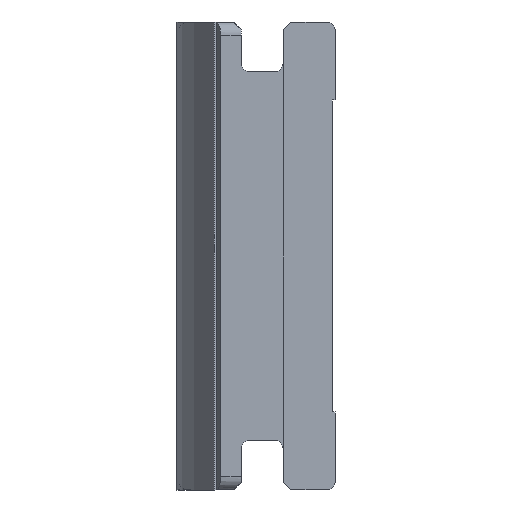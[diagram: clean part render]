
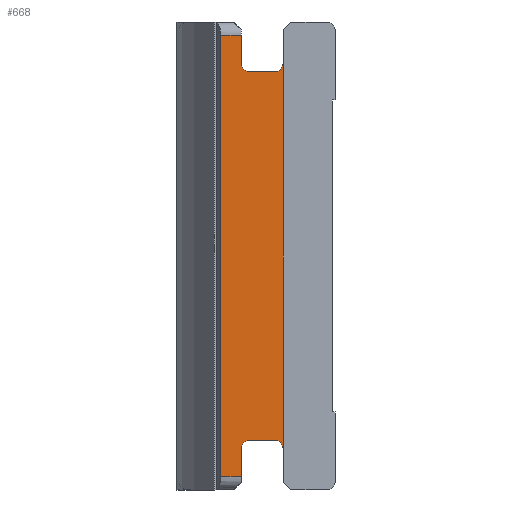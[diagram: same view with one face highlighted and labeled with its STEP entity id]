
A CAD part, left-side view. The second image highlights one B-rep face of the part: STEP entity #668.
In plain terms, the highlighted planar face has unit normal (-1, 0, 0).
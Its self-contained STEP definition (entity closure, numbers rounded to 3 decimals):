
#7 = AXIS2_PLACEMENT_3D ( 'NONE', #1780, #1515, #1056 ) ;
#52 = LINE ( 'NONE', #656, #1725 ) ;
#53 = CARTESIAN_POINT ( 'NONE',  ( 10., 2.2, -7.1 ) ) ;
#83 = EDGE_LOOP ( 'NONE', ( #1526, #1447, #869, #423, #897, #811, #295, #501, #1152, #332, #1834, #363 ) ) ;
#92 = CARTESIAN_POINT ( 'NONE',  ( 10., 2.2, 7.4 ) ) ;
#155 = DIRECTION ( 'NONE',  ( 0., 0., -1. ) ) ;
#157 = VERTEX_POINT ( 'NONE', #506 ) ;
#167 = EDGE_CURVE ( 'NONE', #1025, #157, #409, .T. ) ;
#171 = CARTESIAN_POINT ( 'NONE',  ( 10., 4.3, 8.5 ) ) ;
#211 = CARTESIAN_POINT ( 'NONE',  ( 10., 3.5, -8.7 ) ) ;
#221 = CIRCLE ( 'NONE', #1211, 0.3 ) ;
#238 = DIRECTION ( 'NONE',  ( 0., 0., -1. ) ) ;
#249 = CARTESIAN_POINT ( 'NONE',  ( 10., 2.2, -7.4 ) ) ;
#255 = VERTEX_POINT ( 'NONE', #272 ) ;
#259 = CARTESIAN_POINT ( 'NONE',  ( 10., 3.5, -8.5 ) ) ;
#272 = CARTESIAN_POINT ( 'NONE',  ( 10., 1.9, -7.4 ) ) ;
#295 = ORIENTED_EDGE ( 'NONE', *, *, #1660, .F. ) ;
#332 = ORIENTED_EDGE ( 'NONE', *, *, #1291, .F. ) ;
#343 = DIRECTION ( 'NONE',  ( 0., -1., 0. ) ) ;
#363 = ORIENTED_EDGE ( 'NONE', *, *, #1799, .F. ) ;
#371 = LINE ( 'NONE', #1675, #1851 ) ;
#373 = VECTOR ( 'NONE', #1506, 1000. ) ;
#409 = CIRCLE ( 'NONE', #1307, 0.3 ) ;
#423 = ORIENTED_EDGE ( 'NONE', *, *, #1534, .T. ) ;
#484 = LINE ( 'NONE', #1206, #1234 ) ;
#490 = VECTOR ( 'NONE', #1110, 1000. ) ;
#493 = DIRECTION ( 'NONE',  ( 0., 1., 0. ) ) ;
#501 = ORIENTED_EDGE ( 'NONE', *, *, #1303, .F. ) ;
#506 = CARTESIAN_POINT ( 'NONE',  ( 10., 3.5, -7.4 ) ) ;
#539 = VERTEX_POINT ( 'NONE', #1331 ) ;
#568 = VERTEX_POINT ( 'NONE', #794 ) ;
#637 = LINE ( 'NONE', #211, #1486 ) ;
#656 = CARTESIAN_POINT ( 'NONE',  ( 10., 4.3, -29.536 ) ) ;
#665 = LINE ( 'NONE', #1555, #490 ) ;
#668 = ADVANCED_FACE ( 'NONE', ( #1487 ), #1236, .F. ) ;
#678 = VECTOR ( 'NONE', #155, 1000. ) ;
#720 = CARTESIAN_POINT ( 'NONE',  ( 10., 3.2, 7.4 ) ) ;
#725 = VERTEX_POINT ( 'NONE', #1789 ) ;
#738 = VECTOR ( 'NONE', #1696, 1000. ) ;
#765 = CIRCLE ( 'NONE', #1479, 0.3 ) ;
#786 = DIRECTION ( 'NONE',  ( 0., 0., -1. ) ) ;
#794 = CARTESIAN_POINT ( 'NONE',  ( 10., 3.5, 7.4 ) ) ;
#811 = ORIENTED_EDGE ( 'NONE', *, *, #167, .F. ) ;
#813 = DIRECTION ( 'NONE',  ( 0., 0., 1. ) ) ;
#824 = CARTESIAN_POINT ( 'NONE',  ( 10., 1.9, -29.536 ) ) ;
#831 = VERTEX_POINT ( 'NONE', #1002 ) ;
#833 = DIRECTION ( 'NONE',  ( -1., 0., 0. ) ) ;
#869 = ORIENTED_EDGE ( 'NONE', *, *, #1619, .F. ) ;
#897 = ORIENTED_EDGE ( 'NONE', *, *, #1154, .F. ) ;
#969 = DIRECTION ( 'NONE',  ( 0., 0., -1. ) ) ;
#1002 = CARTESIAN_POINT ( 'NONE',  ( 10., 1.9, 7.4 ) ) ;
#1025 = VERTEX_POINT ( 'NONE', #1594 ) ;
#1056 = DIRECTION ( 'NONE',  ( 0., 0., -1. ) ) ;
#1073 = CARTESIAN_POINT ( 'NONE',  ( 10., 1.9, 8.5 ) ) ;
#1088 = LINE ( 'NONE', #1073, #373 ) ;
#1110 = DIRECTION ( 'NONE',  ( 0., -1., 0. ) ) ;
#1116 = CARTESIAN_POINT ( 'NONE',  ( 10., 3.2, -7.4 ) ) ;
#1121 = LINE ( 'NONE', #824, #738 ) ;
#1129 = DIRECTION ( 'NONE',  ( -1., 0., 0. ) ) ;
#1136 = VERTEX_POINT ( 'NONE', #53 ) ;
#1152 = ORIENTED_EDGE ( 'NONE', *, *, #1280, .F. ) ;
#1154 = EDGE_CURVE ( 'NONE', #157, #1674, #637, .T. ) ;
#1206 = CARTESIAN_POINT ( 'NONE',  ( 10., 3.2, -7.1 ) ) ;
#1211 = AXIS2_PLACEMENT_3D ( 'NONE', #249, #833, #1258 ) ;
#1217 = CARTESIAN_POINT ( 'NONE',  ( 10., 4.3, -8.5 ) ) ;
#1234 = VECTOR ( 'NONE', #493, 1000. ) ;
#1236 = PLANE ( 'NONE',  #7 ) ;
#1246 = DIRECTION ( 'NONE',  ( 0., 0., -1. ) ) ;
#1257 = EDGE_CURVE ( 'NONE', #539, #1430, #665, .T. ) ;
#1258 = DIRECTION ( 'NONE',  ( 0., 0., -1. ) ) ;
#1280 = EDGE_CURVE ( 'NONE', #831, #255, #1121, .T. ) ;
#1288 = CARTESIAN_POINT ( 'NONE',  ( 10., 2.2, 7.1 ) ) ;
#1291 = EDGE_CURVE ( 'NONE', #1430, #831, #1549, .T. ) ;
#1303 = EDGE_CURVE ( 'NONE', #255, #1136, #221, .T. ) ;
#1307 = AXIS2_PLACEMENT_3D ( 'NONE', #1116, #1793, #969 ) ;
#1331 = CARTESIAN_POINT ( 'NONE',  ( 10., 3.2, 7.1 ) ) ;
#1430 = VERTEX_POINT ( 'NONE', #1288 ) ;
#1438 = EDGE_CURVE ( 'NONE', #725, #568, #1864, .T. ) ;
#1447 = ORIENTED_EDGE ( 'NONE', *, *, #1546, .T. ) ;
#1448 = CARTESIAN_POINT ( 'NONE',  ( 10., 3.5, 8.7 ) ) ;
#1479 = AXIS2_PLACEMENT_3D ( 'NONE', #720, #1530, #238 ) ;
#1486 = VECTOR ( 'NONE', #786, 1000. ) ;
#1487 = FACE_OUTER_BOUND ( 'NONE', #83, .T. ) ;
#1506 = DIRECTION ( 'NONE',  ( 0., 1., 0. ) ) ;
#1515 = DIRECTION ( 'NONE',  ( 1., 0., 0. ) ) ;
#1525 = VERTEX_POINT ( 'NONE', #1217 ) ;
#1526 = ORIENTED_EDGE ( 'NONE', *, *, #1438, .F. ) ;
#1530 = DIRECTION ( 'NONE',  ( -1., 0., 0. ) ) ;
#1534 = EDGE_CURVE ( 'NONE', #1525, #1674, #371, .T. ) ;
#1546 = EDGE_CURVE ( 'NONE', #725, #1859, #1088, .T. ) ;
#1549 = CIRCLE ( 'NONE', #1702, 0.3 ) ;
#1555 = CARTESIAN_POINT ( 'NONE',  ( 10., 3.2, 7.1 ) ) ;
#1594 = CARTESIAN_POINT ( 'NONE',  ( 10., 3.2, -7.1 ) ) ;
#1619 = EDGE_CURVE ( 'NONE', #1525, #1859, #52, .T. ) ;
#1660 = EDGE_CURVE ( 'NONE', #1136, #1025, #484, .T. ) ;
#1674 = VERTEX_POINT ( 'NONE', #259 ) ;
#1675 = CARTESIAN_POINT ( 'NONE',  ( 10., 1.9, -8.5 ) ) ;
#1696 = DIRECTION ( 'NONE',  ( 0., 0., -1. ) ) ;
#1702 = AXIS2_PLACEMENT_3D ( 'NONE', #92, #1129, #1246 ) ;
#1725 = VECTOR ( 'NONE', #813, 1000. ) ;
#1780 = CARTESIAN_POINT ( 'NONE',  ( 10., 1.9, -29.536 ) ) ;
#1789 = CARTESIAN_POINT ( 'NONE',  ( 10., 3.5, 8.5 ) ) ;
#1793 = DIRECTION ( 'NONE',  ( -1., 0., 0. ) ) ;
#1799 = EDGE_CURVE ( 'NONE', #568, #539, #765, .T. ) ;
#1834 = ORIENTED_EDGE ( 'NONE', *, *, #1257, .F. ) ;
#1851 = VECTOR ( 'NONE', #343, 1000. ) ;
#1859 = VERTEX_POINT ( 'NONE', #171 ) ;
#1864 = LINE ( 'NONE', #1448, #678 ) ;
